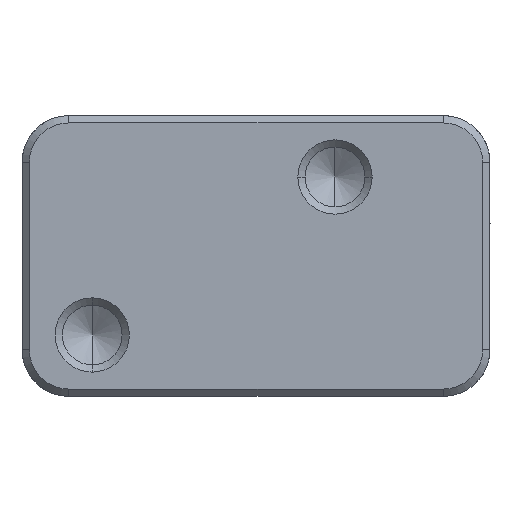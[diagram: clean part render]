
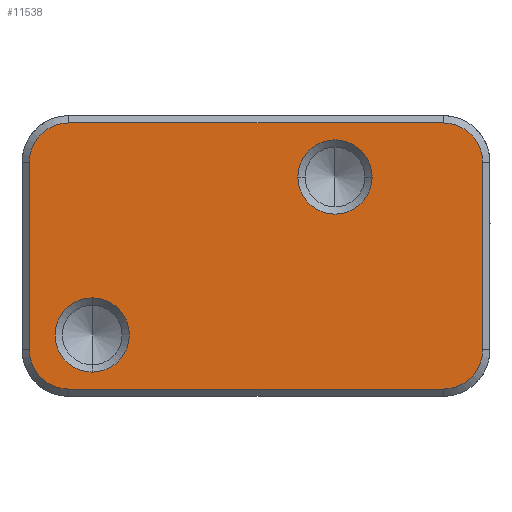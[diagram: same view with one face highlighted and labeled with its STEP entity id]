
A CAD part, front view. The second image highlights one B-rep face of the part: STEP entity #11538.
In plain terms, the highlighted planar face has unit normal (0, -1, 0).
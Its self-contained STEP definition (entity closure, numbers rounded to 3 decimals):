
#88 = DIRECTION ( 'NONE',  ( 0., 0., -1. ) ) ;
#156 = VERTEX_POINT ( 'NONE', #6312 ) ;
#362 = AXIS2_PLACEMENT_3D ( 'NONE', #6068, #3812, #535 ) ;
#376 = CARTESIAN_POINT ( 'NONE',  ( -40., 0.897, 22.74 ) ) ;
#419 = CARTESIAN_POINT ( 'NONE',  ( 32.001, 0.897, 22.74 ) ) ;
#535 = DIRECTION ( 'NONE',  ( 1., 0., 0. ) ) ;
#936 = VERTEX_POINT ( 'NONE', #419 ) ;
#1299 = CIRCLE ( 'NONE', #5499, 6.75 ) ;
#1324 = VECTOR ( 'NONE', #12849, 1000. ) ;
#1493 = VERTEX_POINT ( 'NONE', #11611 ) ;
#1544 = EDGE_CURVE ( 'NONE', #1493, #8275, #9182, .T. ) ;
#1562 = CARTESIAN_POINT ( 'NONE',  ( 38.75, 0.897, -16.012 ) ) ;
#1563 = EDGE_LOOP ( 'NONE', ( #13909, #6084 ) ) ;
#1607 = DIRECTION ( 'NONE',  ( -1., 0., 0. ) ) ;
#1755 = CARTESIAN_POINT ( 'NONE',  ( 32.001, 0.897, -16.012 ) ) ;
#1900 = CARTESIAN_POINT ( 'NONE',  ( -32.001, 0.897, 22.74 ) ) ;
#2424 = DIRECTION ( 'NONE',  ( 0., 0., 1. ) ) ;
#2547 = EDGE_CURVE ( 'NONE', #13833, #5449, #6407, .T. ) ;
#2804 = EDGE_CURVE ( 'NONE', #3955, #13833, #5125, .T. ) ;
#2833 = CARTESIAN_POINT ( 'NONE',  ( -38.75, 0.897, -16.012 ) ) ;
#2908 = CARTESIAN_POINT ( 'NONE',  ( -38.75, 0.897, -24.012 ) ) ;
#2932 = AXIS2_PLACEMENT_3D ( 'NONE', #1755, #12786, #4021 ) ;
#3141 = DIRECTION ( 'NONE',  ( 1., 0., 0. ) ) ;
#3218 = CARTESIAN_POINT ( 'NONE',  ( -28.001, 0.897, -13.511 ) ) ;
#3433 = CARTESIAN_POINT ( 'NONE',  ( -32.001, 0.897, 15.99 ) ) ;
#3562 = LINE ( 'NONE', #12477, #12021 ) ;
#3737 = DIRECTION ( 'NONE',  ( 1., 0., 0. ) ) ;
#3812 = DIRECTION ( 'NONE',  ( 0., 1., 0. ) ) ;
#3891 = PLANE ( 'NONE',  #13840 ) ;
#3952 = EDGE_CURVE ( 'NONE', #936, #7190, #5982, .T. ) ;
#3955 = VERTEX_POINT ( 'NONE', #10428 ) ;
#4021 = DIRECTION ( 'NONE',  ( 0., 0., 1. ) ) ;
#4653 = ORIENTED_EDGE ( 'NONE', *, *, #9583, .T. ) ;
#4963 = ORIENTED_EDGE ( 'NONE', *, *, #9682, .T. ) ;
#5006 = VECTOR ( 'NONE', #10952, 1000. ) ;
#5123 = EDGE_CURVE ( 'NONE', #6919, #3955, #7595, .T. ) ;
#5125 = LINE ( 'NONE', #11841, #5006 ) ;
#5260 = ORIENTED_EDGE ( 'NONE', *, *, #3952, .T. ) ;
#5449 = VERTEX_POINT ( 'NONE', #2833 ) ;
#5499 = AXIS2_PLACEMENT_3D ( 'NONE', #8472, #8341, #7098 ) ;
#5504 = DIRECTION ( 'NONE',  ( 0., 0., -1. ) ) ;
#5523 = CARTESIAN_POINT ( 'NONE',  ( -28.001, 0.897, -19.861 ) ) ;
#5757 = ORIENTED_EDGE ( 'NONE', *, *, #9308, .T. ) ;
#5921 = CIRCLE ( 'NONE', #10348, 6.35 ) ;
#5982 = LINE ( 'NONE', #376, #7827 ) ;
#6068 = CARTESIAN_POINT ( 'NONE',  ( 13.501, 0.897, 13.489 ) ) ;
#6084 = ORIENTED_EDGE ( 'NONE', *, *, #11643, .T. ) ;
#6207 = ORIENTED_EDGE ( 'NONE', *, *, #7493, .T. ) ;
#6312 = CARTESIAN_POINT ( 'NONE',  ( 19.85, 0.897, 13.489 ) ) ;
#6349 = EDGE_LOOP ( 'NONE', ( #11503, #4963, #5757, #5260, #4653, #6207, #7439, #9316 ) ) ;
#6407 = CIRCLE ( 'NONE', #12696, 6.75 ) ;
#6919 = VERTEX_POINT ( 'NONE', #1562 ) ;
#7017 = FACE_BOUND ( 'NONE', #13612, .T. ) ;
#7098 = DIRECTION ( 'NONE',  ( 0., 0., 1. ) ) ;
#7190 = VERTEX_POINT ( 'NONE', #1900 ) ;
#7317 = FACE_OUTER_BOUND ( 'NONE', #6349, .T. ) ;
#7439 = ORIENTED_EDGE ( 'NONE', *, *, #2547, .F. ) ;
#7493 = EDGE_CURVE ( 'NONE', #11433, #5449, #11744, .T. ) ;
#7595 = CIRCLE ( 'NONE', #2932, 6.75 ) ;
#7800 = DIRECTION ( 'NONE',  ( 0., 0., 1. ) ) ;
#7827 = VECTOR ( 'NONE', #1607, 1000. ) ;
#7973 = DIRECTION ( 'NONE',  ( 0., 1., 0. ) ) ;
#8275 = VERTEX_POINT ( 'NONE', #5523 ) ;
#8341 = DIRECTION ( 'NONE',  ( 0., -1., 0. ) ) ;
#8472 = CARTESIAN_POINT ( 'NONE',  ( 32.001, 0.897, 15.99 ) ) ;
#8488 = AXIS2_PLACEMENT_3D ( 'NONE', #3218, #12196, #88 ) ;
#8613 = CARTESIAN_POINT ( 'NONE',  ( 13.501, 0.897, 13.489 ) ) ;
#8687 = EDGE_CURVE ( 'NONE', #156, #12468, #14114, .T. ) ;
#8810 = ORIENTED_EDGE ( 'NONE', *, *, #1544, .T. ) ;
#8857 = DIRECTION ( 'NONE',  ( 0., 1., 0. ) ) ;
#8966 = DIRECTION ( 'NONE',  ( 0., -1., 0. ) ) ;
#9182 = CIRCLE ( 'NONE', #8488, 6.35 ) ;
#9272 = DIRECTION ( 'NONE',  ( 0., -1., 0. ) ) ;
#9308 = EDGE_CURVE ( 'NONE', #13337, #936, #1299, .T. ) ;
#9316 = ORIENTED_EDGE ( 'NONE', *, *, #2804, .F. ) ;
#9583 = EDGE_CURVE ( 'NONE', #7190, #11433, #12963, .T. ) ;
#9682 = EDGE_CURVE ( 'NONE', #6919, #13337, #3562, .T. ) ;
#9781 = DIRECTION ( 'NONE',  ( 0., 1., 0. ) ) ;
#10082 = ORIENTED_EDGE ( 'NONE', *, *, #12544, .T. ) ;
#10348 = AXIS2_PLACEMENT_3D ( 'NONE', #8613, #9781, #3141 ) ;
#10360 = FACE_BOUND ( 'NONE', #1563, .T. ) ;
#10428 = CARTESIAN_POINT ( 'NONE',  ( 32.001, 0.897, -22.762 ) ) ;
#10612 = AXIS2_PLACEMENT_3D ( 'NONE', #3433, #8966, #13276 ) ;
#10868 = CARTESIAN_POINT ( 'NONE',  ( 38.75, 0.897, 15.99 ) ) ;
#10952 = DIRECTION ( 'NONE',  ( -1., 0., 0. ) ) ;
#11194 = CARTESIAN_POINT ( 'NONE',  ( -32.001, 0.897, -16.012 ) ) ;
#11433 = VERTEX_POINT ( 'NONE', #13521 ) ;
#11462 = CARTESIAN_POINT ( 'NONE',  ( -40., 0.897, -24.012 ) ) ;
#11471 = CARTESIAN_POINT ( 'NONE',  ( -32.001, 0.897, -22.762 ) ) ;
#11503 = ORIENTED_EDGE ( 'NONE', *, *, #5123, .F. ) ;
#11538 = ADVANCED_FACE ( 'NONE', ( #10360, #7317, #7017 ), #3891, .T. ) ;
#11611 = CARTESIAN_POINT ( 'NONE',  ( -28.001, 0.897, -7.161 ) ) ;
#11643 = EDGE_CURVE ( 'NONE', #12468, #156, #5921, .T. ) ;
#11744 = LINE ( 'NONE', #2908, #1324 ) ;
#11841 = CARTESIAN_POINT ( 'NONE',  ( -40., 0.897, -22.762 ) ) ;
#12021 = VECTOR ( 'NONE', #7800, 1000. ) ;
#12196 = DIRECTION ( 'NONE',  ( 0., 1., 0. ) ) ;
#12468 = VERTEX_POINT ( 'NONE', #13910 ) ;
#12477 = CARTESIAN_POINT ( 'NONE',  ( 38.75, 0.897, -24.012 ) ) ;
#12544 = EDGE_CURVE ( 'NONE', #8275, #1493, #12976, .T. ) ;
#12696 = AXIS2_PLACEMENT_3D ( 'NONE', #11194, #7973, #2424 ) ;
#12786 = DIRECTION ( 'NONE',  ( 0., 1., 0. ) ) ;
#12849 = DIRECTION ( 'NONE',  ( 0., 0., -1. ) ) ;
#12963 = CIRCLE ( 'NONE', #10612, 6.75 ) ;
#12976 = CIRCLE ( 'NONE', #13664, 6.35 ) ;
#13162 = CARTESIAN_POINT ( 'NONE',  ( -28.001, 0.897, -13.511 ) ) ;
#13276 = DIRECTION ( 'NONE',  ( 0., 0., 1. ) ) ;
#13337 = VERTEX_POINT ( 'NONE', #10868 ) ;
#13521 = CARTESIAN_POINT ( 'NONE',  ( -38.75, 0.897, 15.99 ) ) ;
#13612 = EDGE_LOOP ( 'NONE', ( #10082, #8810 ) ) ;
#13664 = AXIS2_PLACEMENT_3D ( 'NONE', #13162, #8857, #5504 ) ;
#13833 = VERTEX_POINT ( 'NONE', #11471 ) ;
#13840 = AXIS2_PLACEMENT_3D ( 'NONE', #11462, #9272, #3737 ) ;
#13909 = ORIENTED_EDGE ( 'NONE', *, *, #8687, .T. ) ;
#13910 = CARTESIAN_POINT ( 'NONE',  ( 7.151, 0.897, 13.489 ) ) ;
#14114 = CIRCLE ( 'NONE', #362, 6.35 ) ;
